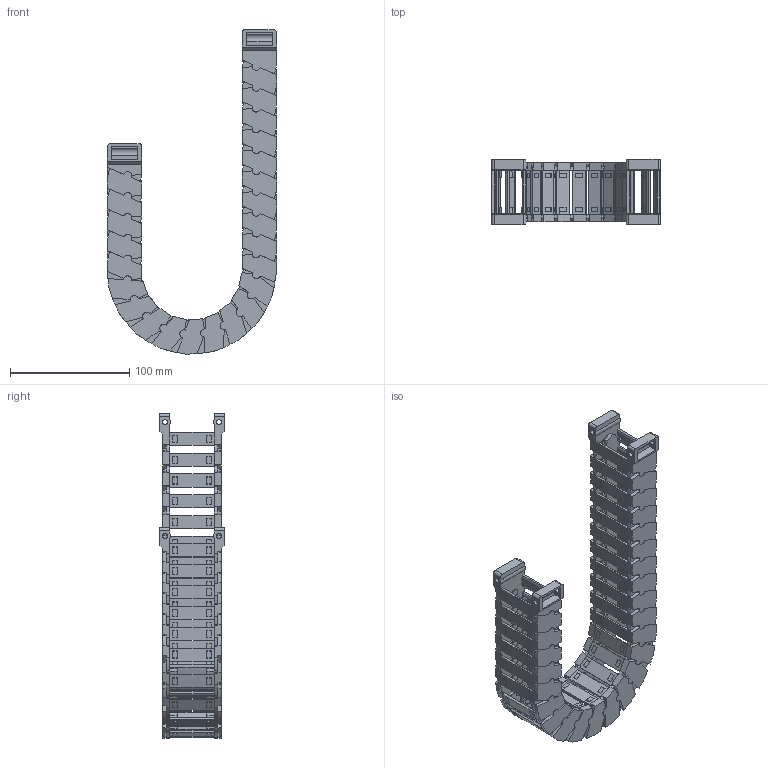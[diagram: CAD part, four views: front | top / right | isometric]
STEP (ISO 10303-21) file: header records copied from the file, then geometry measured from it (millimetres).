
FILE_DESCRIPTION(/* description */ (''),/* implementation_level */ '2;1');
FILE_NAME(/* name */ 'JY22-37-R55.stp',/* time_stamp */ '2026-06-20T14:43:20+08:00',/* author */ (''),/* organization */ (''),/* preprocessor_version */ 'ST-DEVELOPER v19.4',/* originating_system */ 'SIEMENS PLM Software NX2306.5001',/* authorisation */ '');
FILE_SCHEMA (('AP203_CONFIGURATION_CONTROLLED_3D_DESIGN_OF_MECHANICAL_PARTS_AND_ASSEMBLIES_MIM_LF { 1 0 10303 403 2 1 2}'));
Products named in the file (1): 简易图纸_Admi079CF058wuy6
Bounding box: 142.01 x 54.5 x 272.44 mm (x, y, z)
Volume: 202697.3 mm3; surface area: 181333.8 mm2
Topology: 26 solids, 26 shells, 4302 faces, 13928 edges, 9272 vertices
Faces by surface type: plane 3222, cylinder 684, cone 200, bspline 196
Full cylindrical faces by diameter (mm): 4.2 x8, 7 x50, 7.1 x50
Entity records: 160042 total; most frequent: CARTESIAN_POINT 37943, ORIENTED_EDGE 27424, DIRECTION 23666, EDGE_CURVE 13712, LINE 9376, VECTOR 9376, VERTEX_POINT 9164, AXIS2_PLACEMENT_3D 7145
